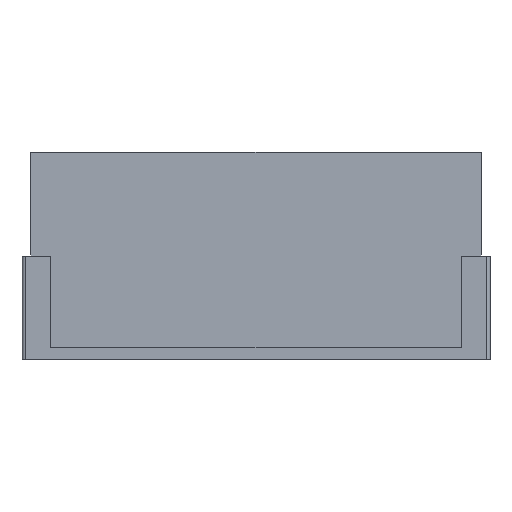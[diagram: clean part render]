
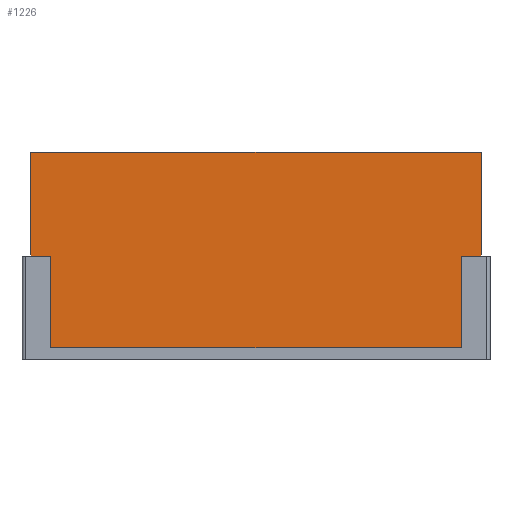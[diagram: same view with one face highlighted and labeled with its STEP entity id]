
A CAD part, front view. The second image highlights one B-rep face of the part: STEP entity #1226.
In plain terms, the highlighted planar face has unit normal (0, -1, 0).
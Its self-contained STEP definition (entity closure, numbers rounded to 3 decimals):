
#70=CARTESIAN_POINT('Vertex',(-18.45,-3.425,17.)) ;
#73=CARTESIAN_POINT('Line Origine',(0.,-3.425,17.)) ;
#77=CARTESIAN_POINT('Vertex',(18.45,-3.425,17.)) ;
#1164=CARTESIAN_POINT('Axis2P3D Location',(0.,-3.425,17.)) ;
#1169=CARTESIAN_POINT('Line Origine',(18.45,-3.425,12.75)) ;
#1173=CARTESIAN_POINT('Vertex',(18.45,-3.425,8.5)) ;
#1176=CARTESIAN_POINT('Line Origine',(-18.45,-3.425,12.75)) ;
#1180=CARTESIAN_POINT('Vertex',(-18.45,-3.425,8.5)) ;
#1183=CARTESIAN_POINT('Line Origine',(-17.625,-3.425,8.5)) ;
#1187=CARTESIAN_POINT('Vertex',(-16.8,-3.425,8.5)) ;
#1190=CARTESIAN_POINT('Line Origine',(-16.8,-3.425,4.75)) ;
#1194=CARTESIAN_POINT('Vertex',(-16.8,-3.425,1.)) ;
#1197=CARTESIAN_POINT('Line Origine',(0.,-3.425,1.)) ;
#1201=CARTESIAN_POINT('Vertex',(16.8,-3.425,1.)) ;
#1204=CARTESIAN_POINT('Line Origine',(16.8,-3.425,4.75)) ;
#1208=CARTESIAN_POINT('Vertex',(16.8,-3.425,8.5)) ;
#1211=CARTESIAN_POINT('Line Origine',(17.625,-3.425,8.5)) ;
#74=DIRECTION('Vector Direction',(1.,0.,0.)) ;
#1165=DIRECTION('Axis2P3D Direction',(0.,-1.,0.)) ;
#1166=DIRECTION('Axis2P3D XDirection',(0.,0.,-1.)) ;
#1170=DIRECTION('Vector Direction',(0.,0.,-1.)) ;
#1177=DIRECTION('Vector Direction',(0.,0.,-1.)) ;
#1184=DIRECTION('Vector Direction',(-1.,0.,0.)) ;
#1191=DIRECTION('Vector Direction',(0.,0.,-1.)) ;
#1198=DIRECTION('Vector Direction',(-1.,0.,0.)) ;
#1205=DIRECTION('Vector Direction',(0.,0.,-1.)) ;
#1212=DIRECTION('Vector Direction',(-1.,0.,0.)) ;
#1167=AXIS2_PLACEMENT_3D('Plane Axis2P3D',#1164,#1165,#1166) ;
#1217=ORIENTED_EDGE('',*,*,#1175,.F.) ;
#1218=ORIENTED_EDGE('',*,*,#79,.F.) ;
#1219=ORIENTED_EDGE('',*,*,#1182,.T.) ;
#1220=ORIENTED_EDGE('',*,*,#1189,.F.) ;
#1221=ORIENTED_EDGE('',*,*,#1196,.T.) ;
#1222=ORIENTED_EDGE('',*,*,#1203,.F.) ;
#1223=ORIENTED_EDGE('',*,*,#1210,.F.) ;
#1224=ORIENTED_EDGE('',*,*,#1215,.F.) ;
#75=VECTOR('Line Direction',#74,1.) ;
#1171=VECTOR('Line Direction',#1170,1.) ;
#1178=VECTOR('Line Direction',#1177,1.) ;
#1185=VECTOR('Line Direction',#1184,1.) ;
#1192=VECTOR('Line Direction',#1191,1.) ;
#1199=VECTOR('Line Direction',#1198,1.) ;
#1206=VECTOR('Line Direction',#1205,1.) ;
#1213=VECTOR('Line Direction',#1212,1.) ;
#1226=ADVANCED_FACE('\X2\96F64EF651E04F554F53\X0\',(#1225),#1168,.T.) ;
#79=EDGE_CURVE('',#71,#78,#76,.T.) ;
#1175=EDGE_CURVE('',#78,#1174,#1172,.T.) ;
#1182=EDGE_CURVE('',#71,#1181,#1179,.T.) ;
#1189=EDGE_CURVE('',#1188,#1181,#1186,.T.) ;
#1196=EDGE_CURVE('',#1188,#1195,#1193,.T.) ;
#1203=EDGE_CURVE('',#1202,#1195,#1200,.T.) ;
#1210=EDGE_CURVE('',#1209,#1202,#1207,.T.) ;
#1215=EDGE_CURVE('',#1174,#1209,#1214,.T.) ;
#1216=EDGE_LOOP('',(#1217,#1218,#1219,#1220,#1221,#1222,#1223,#1224)) ;
#1225=FACE_OUTER_BOUND('',#1216,.T.) ;
#76=LINE('Line',#73,#75) ;
#1172=LINE('Line',#1169,#1171) ;
#1179=LINE('Line',#1176,#1178) ;
#1186=LINE('Line',#1183,#1185) ;
#1193=LINE('Line',#1190,#1192) ;
#1200=LINE('Line',#1197,#1199) ;
#1207=LINE('Line',#1204,#1206) ;
#1214=LINE('Line',#1211,#1213) ;
#1168=PLANE('Plane',#1167) ;
#71=VERTEX_POINT('',#70) ;
#78=VERTEX_POINT('',#77) ;
#1174=VERTEX_POINT('',#1173) ;
#1181=VERTEX_POINT('',#1180) ;
#1188=VERTEX_POINT('',#1187) ;
#1195=VERTEX_POINT('',#1194) ;
#1202=VERTEX_POINT('',#1201) ;
#1209=VERTEX_POINT('',#1208) ;
